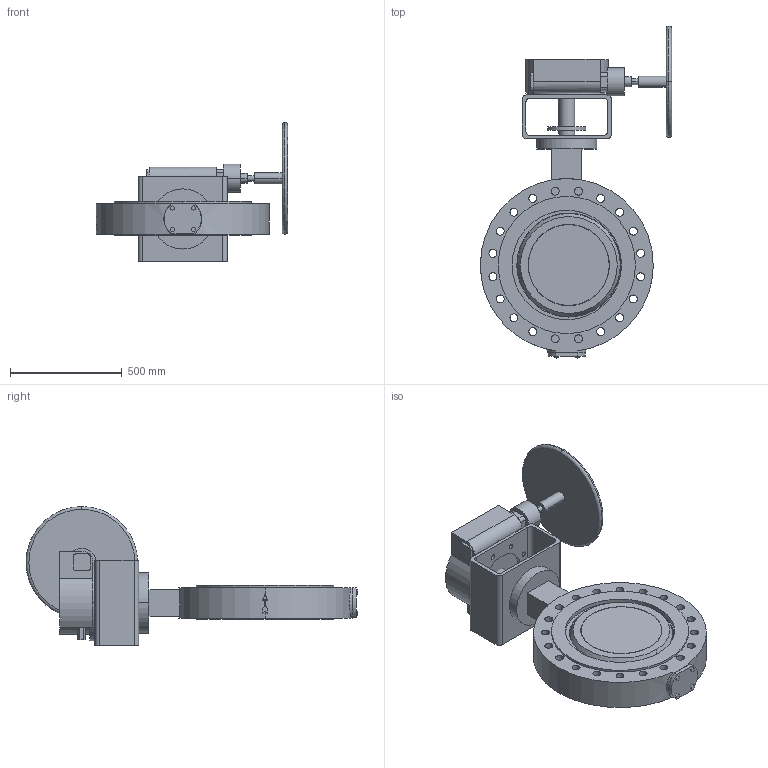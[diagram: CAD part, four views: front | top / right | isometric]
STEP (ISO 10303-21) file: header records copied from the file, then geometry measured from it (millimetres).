
FILE_DESCRIPTION( ( '' ), '1' );
FILE_NAME( 'F:/DE-SHS/TB/OR/04-Sonstiges/daten/Excel/mneugeba/018_ZETRIX-PN40_Getriebe-Rotork/c000006460.stp', '2016-09-19T06:44:28', ( '' ), ( '' ), ' ', ' ', ' ' );
FILE_SCHEMA( ( 'CONFIG_CONTROL_DESIGN' ) );
Length unit declared in the file: millimetre
Products named in the file (2): 1; 2
Bounding box: 857.5 x 1487.5 x 622.5 mm (x, y, z)
Volume: 89984542.5 mm3; surface area: 3936967.2 mm2
Topology: 2 solids, 2 shells, 321 faces, 834 edges, 556 vertices
Faces by surface type: cylinder 169, plane 140, cone 4, sphere 4, torus 4
Entity records: 11156 total; most frequent: CARTESIAN_POINT 2764, DIRECTION 1812, ORIENTED_EDGE 1668, EDGE_CURVE 834, AXIS2_PLACEMENT_3D 694, VERTEX_POINT 556, LINE 424, VECTOR 424
